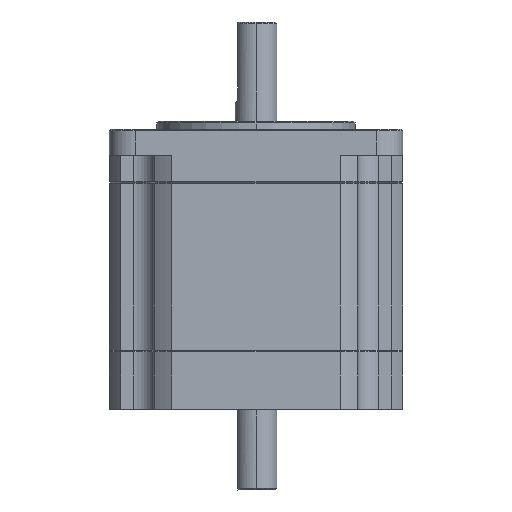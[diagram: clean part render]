
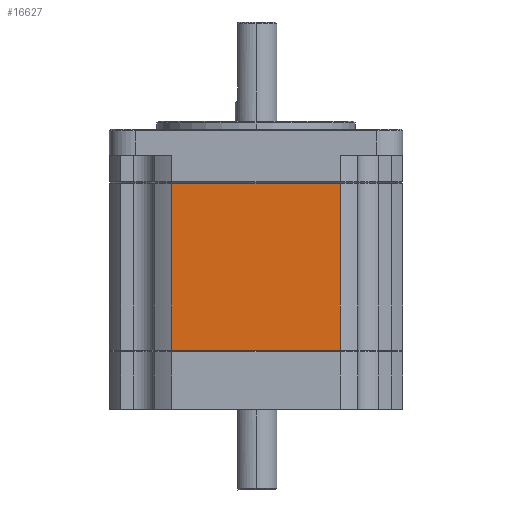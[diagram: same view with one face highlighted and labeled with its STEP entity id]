
A CAD part, front view. The second image highlights one B-rep face of the part: STEP entity #16627.
In plain terms, the highlighted planar face has unit normal (0, -1, 0).
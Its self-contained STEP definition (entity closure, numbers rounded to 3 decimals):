
#100 = LINE ( 'NONE', #8879, #3886 ) ;
#402 = VERTEX_POINT ( 'NONE', #4529 ) ;
#793 = DIRECTION ( 'NONE',  ( -1., 0., 0. ) ) ;
#933 = CARTESIAN_POINT ( 'NONE',  ( -16.156, -28.2, -32.05 ) ) ;
#3441 = ORIENTED_EDGE ( 'NONE', *, *, #8683, .T. ) ;
#3715 = ORIENTED_EDGE ( 'NONE', *, *, #14922, .T. ) ;
#3862 = DIRECTION ( 'NONE',  ( 0., 0., -1. ) ) ;
#3886 = VECTOR ( 'NONE', #10584, 1000. ) ;
#4346 = CARTESIAN_POINT ( 'NONE',  ( -16.156, -28.2, -32.05 ) ) ;
#4529 = CARTESIAN_POINT ( 'NONE',  ( 16.156, -28.2, 0. ) ) ;
#5038 = VERTEX_POINT ( 'NONE', #4346 ) ;
#5192 = CARTESIAN_POINT ( 'NONE',  ( 0., -28.2, -32.05 ) ) ;
#6083 = VECTOR ( 'NONE', #793, 1000. ) ;
#6301 = EDGE_CURVE ( 'NONE', #402, #18655, #100, .T. ) ;
#6600 = VECTOR ( 'NONE', #16716, 1000. ) ;
#6711 = DIRECTION ( 'NONE',  ( 0., 0., -1. ) ) ;
#6940 = ORIENTED_EDGE ( 'NONE', *, *, #16591, .T. ) ;
#8650 = VECTOR ( 'NONE', #6711, 1000. ) ;
#8683 = EDGE_CURVE ( 'NONE', #402, #15952, #12243, .T. ) ;
#8879 = CARTESIAN_POINT ( 'NONE',  ( 16.156, -28.2, -32.05 ) ) ;
#10000 = LINE ( 'NONE', #15761, #8650 ) ;
#10032 = ORIENTED_EDGE ( 'NONE', *, *, #6301, .F. ) ;
#10584 = DIRECTION ( 'NONE',  ( 0., 0., -1. ) ) ;
#12243 = LINE ( 'NONE', #13473, #6083 ) ;
#12464 = DIRECTION ( 'NONE',  ( 0., -1., 0. ) ) ;
#12661 = PLANE ( 'NONE',  #16268 ) ;
#13157 = CARTESIAN_POINT ( 'NONE',  ( -16.156, -28.2, 0. ) ) ;
#13473 = CARTESIAN_POINT ( 'NONE',  ( -16.156, -28.2, 0. ) ) ;
#13885 = FACE_OUTER_BOUND ( 'NONE', #14127, .T. ) ;
#14127 = EDGE_LOOP ( 'NONE', ( #6940, #10032, #3441, #3715 ) ) ;
#14922 = EDGE_CURVE ( 'NONE', #15952, #5038, #10000, .T. ) ;
#15761 = CARTESIAN_POINT ( 'NONE',  ( -16.156, -28.2, -32.05 ) ) ;
#15952 = VERTEX_POINT ( 'NONE', #13157 ) ;
#16268 = AXIS2_PLACEMENT_3D ( 'NONE', #933, #12464, #3862 ) ;
#16591 = EDGE_CURVE ( 'NONE', #5038, #18655, #18316, .T. ) ;
#16627 = ADVANCED_FACE ( 'NONE', ( #13885 ), #12661, .T. ) ;
#16716 = DIRECTION ( 'NONE',  ( 1., 0., 0. ) ) ;
#17566 = CARTESIAN_POINT ( 'NONE',  ( 16.156, -28.2, -32.05 ) ) ;
#18316 = LINE ( 'NONE', #5192, #6600 ) ;
#18655 = VERTEX_POINT ( 'NONE', #17566 ) ;
